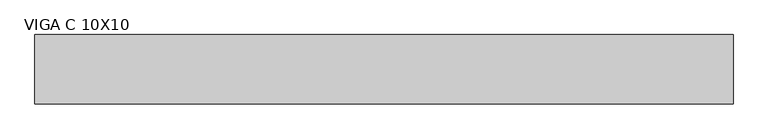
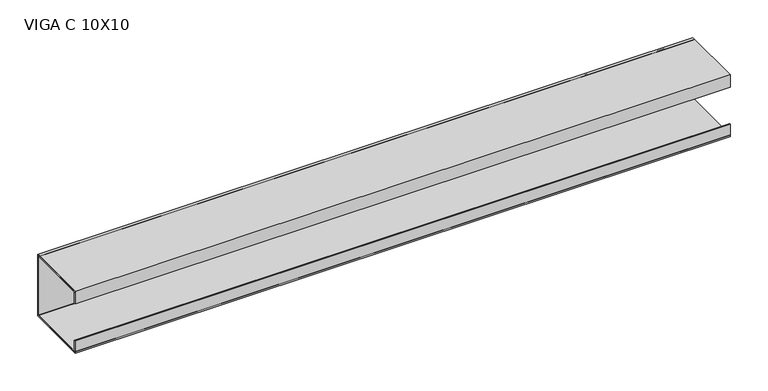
"""IFC4 building model written with IfcOpenShell, lengths in millimetres: beam geometry, VIGA PERFIL C AÇO : VIGA C 10X10."""

from ifc_helpers import new_model, si_unit, point, frame, frame_2d, origin, place, context, project, spatial, polyline, circle_curve, trimmed, segment, composite_curve, outline, extrude, source, transform, mapped, element, save


def viga_c_10x10_c1a71fa2(model_context):
    return source(origin(), model_context, "Body", "SweptSolid", [
        extrude(outline(polyline([(9.2, -50.0), (-90.8, -50.0), (-90.8, -30.0), (-88.9, -30.0), (-88.9, -48.1), (7.3, -48.1), (7.3, 48.1), (-88.9, 48.1), (-88.9, 30.0), (-90.8, 30.0), (-90.8, 50.0), (9.2, 50.0), (9.2, -50.0)])), frame((-536.0, 0.0, 0.0), z_axis=(1.0, 0.0, 0.0), x_axis=(0.0, 1.0, 0.0)), (0.0, 0.0, 1.0), 1006.0),
        extrude(outline(composite_curve([segment(trimmed(circle_curve(frame_2d((5.4, -46.2)), 3.8), [point((9.2, -46.2))], [point((5.4, -50.0))], False, "CARTESIAN"), True, "CONTINUOUS"), segment(polyline([(5.4, -50.0), (-87.0, -50.0)]), True, "CONTINUOUS"), segment(trimmed(circle_curve(frame_2d((-87.0, -46.2)), 3.8), [point((-87.0, -50.0))], [point((-90.8, -46.2))], False, "CARTESIAN"), True, "CONTINUOUS"), segment(polyline([(-90.8, -46.2), (-90.8, -30.0), (-88.9, -30.0), (-88.9, -46.2)]), True, "CONTINUOUS"), segment(trimmed(circle_curve(frame_2d((-87.0, -46.2)), 1.9), [point((-88.9, -46.2))], [point((-87.0, -48.1))], True, "CARTESIAN"), True, "CONTINUOUS"), segment(polyline([(-87.0, -48.1), (5.4, -48.1)]), True, "CONTINUOUS"), segment(trimmed(circle_curve(frame_2d((5.4, -46.2)), 1.9), [point((5.4, -48.1))], [point((7.3, -46.2))], True, "CARTESIAN"), True, "CONTINUOUS"), segment(polyline([(7.3, -46.2), (7.3, 46.2)]), True, "CONTINUOUS"), segment(trimmed(circle_curve(frame_2d((5.4, 46.2)), 1.9), [point((7.3, 46.2))], [point((5.4, 48.1))], True, "CARTESIAN"), True, "CONTINUOUS"), segment(polyline([(5.4, 48.1), (-87.0, 48.1)]), True, "CONTINUOUS"), segment(trimmed(circle_curve(frame_2d((-87.0, 46.2)), 1.9), [point((-87.0, 48.1))], [point((-88.9, 46.2))], True, "CARTESIAN"), True, "CONTINUOUS"), segment(polyline([(-88.9, 46.2), (-88.9, 30.0), (-90.8, 30.0), (-90.8, 46.2)]), True, "CONTINUOUS"), segment(trimmed(circle_curve(frame_2d((-87.0, 46.2)), 3.8), [point((-90.8, 46.2))], [point((-87.0, 50.0))], False, "CARTESIAN"), True, "CONTINUOUS"), segment(polyline([(-87.0, 50.0), (5.4, 50.0)]), True, "CONTINUOUS"), segment(trimmed(circle_curve(frame_2d((5.4, 46.2)), 3.8), [point((5.4, 50.0))], [point((9.2, 46.2))], False, "CARTESIAN"), True, "CONTINUOUS"), segment(polyline([(9.2, 46.2), (9.2, -46.2)]), True, "CONTINUOUS")], self_intersect=False)), frame((-536.0, 0.0, 0.0), z_axis=(1.0, 0.0, 0.0), x_axis=(0.0, 1.0, 0.0)), (0.0, 0.0, 1.0), 1006.0),
    ])


if __name__ == "__main__":
    model = new_model("IFC4")
    model_context = context("Model", 3, world=origin())
    ifc_project = project(units=[si_unit("LENGTHUNIT", "METRE", prefix="MILLI")], contexts=[model_context])
    site = spatial("IfcSite", under=ifc_project)
    building = spatial("IfcBuilding", under=site)
    placement = place(None, origin())
    viga_c_10x10_shape = viga_c_10x10_c1a71fa2(model_context)
    element("IfcBeam", 1, ObjectType="VIGA PERFIL C AÇO : VIGA C 10X10", at=placement, inside=building, context=model_context, shape_type="MappedRepresentation", body=[
        mapped(viga_c_10x10_shape, transform((0.0, 0.0, 0.0), x_axis=(1.0, 0.0, 0.0), y_axis=(0.0, 1.0, 0.0), z_axis=(0.0, 0.0, 1.0))),
    ])
    save(model, "model.ifc")
